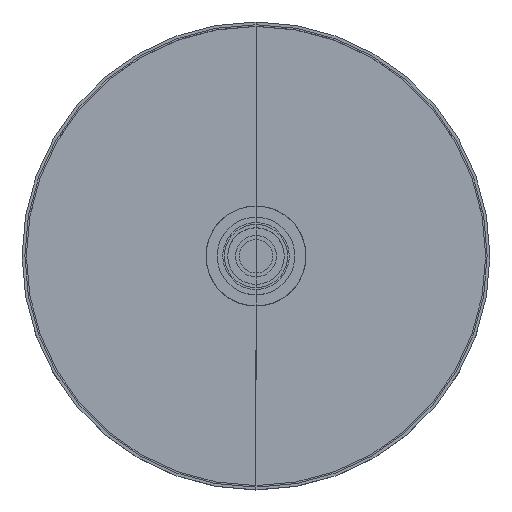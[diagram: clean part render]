
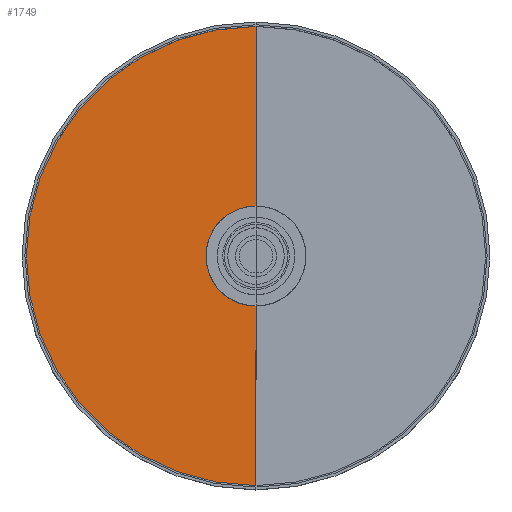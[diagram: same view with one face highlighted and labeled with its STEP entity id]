
A CAD part, top view. The second image highlights one B-rep face of the part: STEP entity #1749.
In plain terms, the highlighted planar face has unit normal (0, 0, 1).
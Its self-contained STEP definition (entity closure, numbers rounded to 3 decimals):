
#185=CIRCLE('',#1928,18.5);
#187=CIRCLE('',#1932,122.7);
#297=FACE_OUTER_BOUND('',#427,.T.);
#427=EDGE_LOOP('',(#1380,#1381,#1382,#1383));
#556=LINE('',#3168,#680);
#557=LINE('',#3171,#681);
#680=VECTOR('',#2329,304.8);
#681=VECTOR('',#2332,304.8);
#814=VERTEX_POINT('',#3158);
#815=VERTEX_POINT('',#3160);
#816=VERTEX_POINT('',#3167);
#817=VERTEX_POINT('',#3169);
#1003=EDGE_CURVE('',#814,#815,#185,.T.);
#1004=EDGE_CURVE('',#816,#814,#556,.T.);
#1006=EDGE_CURVE('',#815,#817,#557,.T.);
#1007=EDGE_CURVE('',#816,#817,#187,.T.);
#1380=ORIENTED_EDGE('',*,*,#1003,.T.);
#1381=ORIENTED_EDGE('',*,*,#1006,.T.);
#1382=ORIENTED_EDGE('',*,*,#1007,.F.);
#1383=ORIENTED_EDGE('',*,*,#1004,.T.);
#1661=PLANE('',#1931);
#1749=ADVANCED_FACE('',(#297),#1661,.T.);
#1928=AXIS2_PLACEMENT_3D('',#3165,#2325,#2326);
#1931=AXIS2_PLACEMENT_3D('',#3172,#2333,#2334);
#1932=AXIS2_PLACEMENT_3D('',#3173,#2335,#2336);
#2325=DIRECTION('center_axis',(0.,0.,-1.));
#2326=DIRECTION('ref_axis',(0.,1.,0.));
#2329=DIRECTION('',(0.,1.,0.));
#2332=DIRECTION('',(0.,1.,0.));
#2333=DIRECTION('center_axis',(0.,0.,1.));
#2334=DIRECTION('ref_axis',(0.,1.,0.));
#2335=DIRECTION('center_axis',(0.,0.,-1.));
#2336=DIRECTION('ref_axis',(0.,1.,0.));
#3158=CARTESIAN_POINT('',(0.,-18.5,222.5));
#3160=CARTESIAN_POINT('',(0.,18.5,222.5));
#3165=CARTESIAN_POINT('Origin',(0.,0.,222.5));
#3167=CARTESIAN_POINT('',(0.,-122.7,222.5));
#3168=CARTESIAN_POINT('',(0.,-122.7,222.5));
#3169=CARTESIAN_POINT('',(0.,122.7,222.5));
#3171=CARTESIAN_POINT('',(0.,18.5,222.5));
#3172=CARTESIAN_POINT('Origin',(0.,0.,222.5));
#3173=CARTESIAN_POINT('Origin',(0.,0.,222.5));
